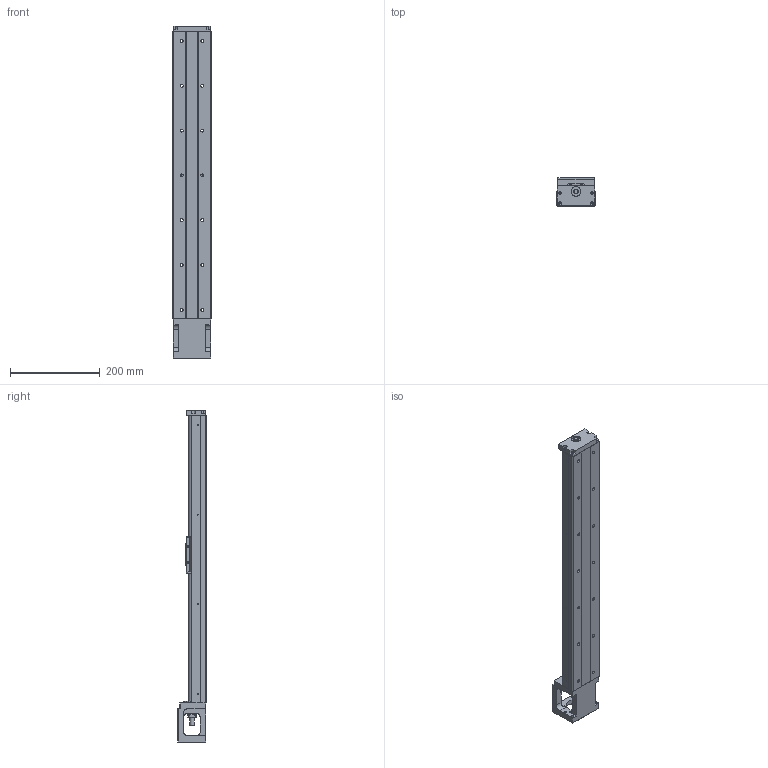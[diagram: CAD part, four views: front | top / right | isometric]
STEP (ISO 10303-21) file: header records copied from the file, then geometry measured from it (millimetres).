
FILE_DESCRIPTION(/* description */ (''),/* implementation_level */ '2;1');
FILE_NAME(/* name */ 'KP46S-640C02-D.stp',/* time_stamp */ '2020-07-03T13:56:40+08:00',/* author */ (''),/* organization */ (''),/* preprocessor_version */ 'ST-DEVELOPER v14',/* originating_system */ 'SIEMENS PLM Software NX 8.0',/* authorisation */ '');
FILE_SCHEMA (('AUTOMOTIVE_DESIGN { 1 0 10303 214 3 1 1 1 }'));
Length unit declared in the file: millimetre
Products named in the file (1): model2
Bounding box: 86 x 64 x 740 mm (x, y, z)
Volume: 1446900.6 mm3; surface area: 322675.2 mm2
Topology: 5 solids, 19 shells, 647 faces, 1697 edges, 1116 vertices
Faces by surface type: plane 289, cylinder 234, cone 63, bspline 53, torus 8
Full cylindrical faces by diameter (mm): 2 x2, 2.11 x2, 2.15 x8, 2.42 x6, 3 x4, 3.2 x4, 3.3 x6, 3.4 x8, 4 x2, 4.2 x4, 4.5 x8, 5 x6, 6 x8, 6.35 x2, 6.6 x14, 6.7 x2, 8.7 x4, 9.6 x1, 10 x4, 11 x14, 12 x1, 14.95 x2, 15 x1, 16 x2, 22 x3, 27.5 x1, 44 x1, 50 x1
Entity records: 32358 total; most frequent: CARTESIAN_POINT 13288, ORIENTED_EDGE 2900, DIRECTION 2823, EDGE_CURVE 1450, VERTEX_POINT 1048, AXIS2_PLACEMENT_3D 1047, EDGE_LOOP 915, LINE 729
